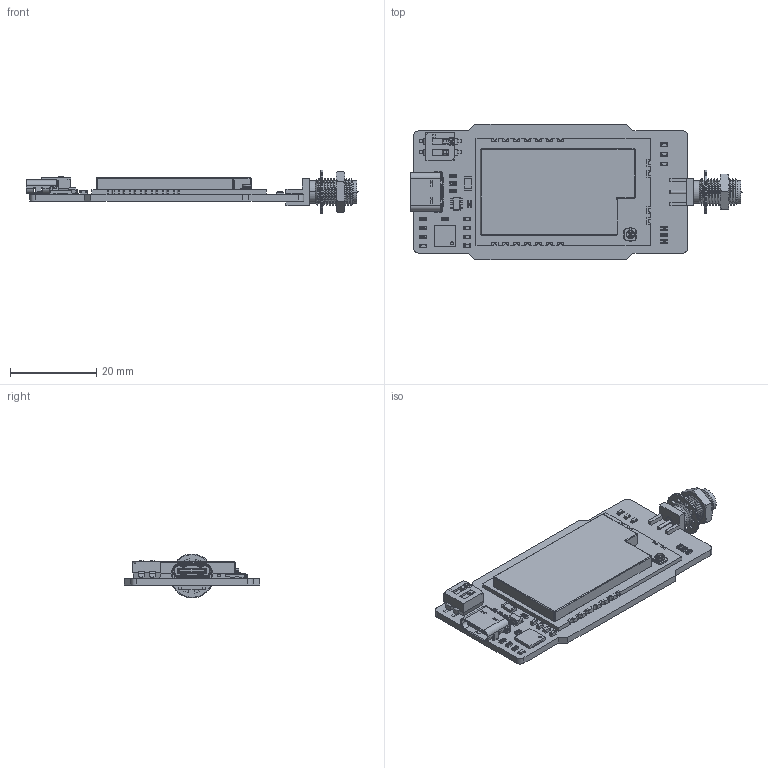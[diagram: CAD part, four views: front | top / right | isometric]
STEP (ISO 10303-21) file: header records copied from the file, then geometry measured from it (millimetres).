
FILE_DESCRIPTION(('Open CASCADE Model'),'2;1');
FILE_NAME('Open CASCADE Shape Model','2026-05-20T13:34:04',('Author'),( 'Open CASCADE'),'Open CASCADE STEP processor 7.5','Open CASCADE 7.5' ,'Unknown');
FILE_SCHEMA(('AUTOMOTIVE_DESIGN { 1 0 10303 214 1 1 1 1 }'));
Length unit declared in the file: millimetre
Products named in the file (57): PCB; Board; Open CASCADE STEP translator 7.5 1.1.1; U2; E22-900T30S--3DModel-STEP-269445; U1; 4412487792; Open CASCADE STEP translator 6.8 17.1; Body; Open CASCADE STEP translator 6.8 17.2.1; Thermal_Shape; Pin_Shape; Open CASCADE STEP translator 6.8 17.4.1; TXD; LED 0603 Lens YELLOW; LED 0603 Base YELLOW; S1; User Library-DIP SW 2P; RXD; LED 0603 Lens GREEN; LED 0603 Base GREEN; R12; 0603 resistor; R11; R9; R8; R7; R6; R5; R4; R3; R2; R1; PWR; LED 0603 Lens RED; LED 0603 Base RED; J2; 63012242121508; Open CASCADE STEP translator 7.5 1.19.1.1; Open CASCADE STEP translator 7.5 1.19.1.2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
Assembly tree (96 placements, depth 5):
  PCB
    Board
      Open CASCADE STEP translator 7.5 1.1.1
    U2
      E22-900T30S--3DModel-STEP-269445
    U1
      4412487792
        Open CASCADE STEP translator 6.8 17.1
        Body
          Open CASCADE STEP translator 6.8 17.2.1
        Thermal_Shape
        Pin_Shape  x28
          Open CASCADE STEP translator 6.8 17.4.1
    TXD
      LED 0603 Lens YELLOW
      LED 0603 Base YELLOW
    S1
      User Library-DIP SW 2P
    RXD
      LED 0603 Lens GREEN
      LED 0603 Base GREEN
    R12
      0603 resistor
    R11
      0603 resistor
    R9
      0603 resistor
    R8
      0603 resistor
    R7
      0603 resistor
    R6
      0603 resistor
    R5
      0603 resistor
    R4
      0603 resistor
    R3
      0603 resistor
    R2
      0603 resistor
    R1
      0603 resistor
    PWR
      LED 0603 Lens RED
      LED 0603 Base RED
    J2
      63012242121508
        Open CASCADE STEP translator 7.5 1.19.1.1
        Open CASCADE STEP translator 7.5 1.19.1.2
        Open CASCADE STEP translator 7.5 1.19.1.3
        Open CASCADE STEP translator 7.5 1.19.1.4
    J1
      7017145216
        USB4105
    D1
      USBLC6-2SC6
    C5
      CAP 1206-0.8mm
    C4
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Bounding box: 77.2 x 31.5 x 10.19 mm (x, y, z)
Volume: 5360.4 mm3; surface area: 11222.1 mm2
Topology: 151 solids, 152 shells, 3639 faces, 9689 edges, 6342 vertices
Faces by surface type: plane 2551, cylinder 816, sphere 88, bspline 82, cone 62, torus 40
Full cylindrical faces by diameter (mm): 0.625 x1, 0.65 x2
Entity records: 113768 total; most frequent: CARTESIAN_POINT 44224, ORIENTED_EDGE 13717, DIRECTION 12854, EDGE_CURVE 6859, LINE 5016, VECTOR 5016, VERTEX_POINT 4446, AXIS2_PLACEMENT_3D 3919
